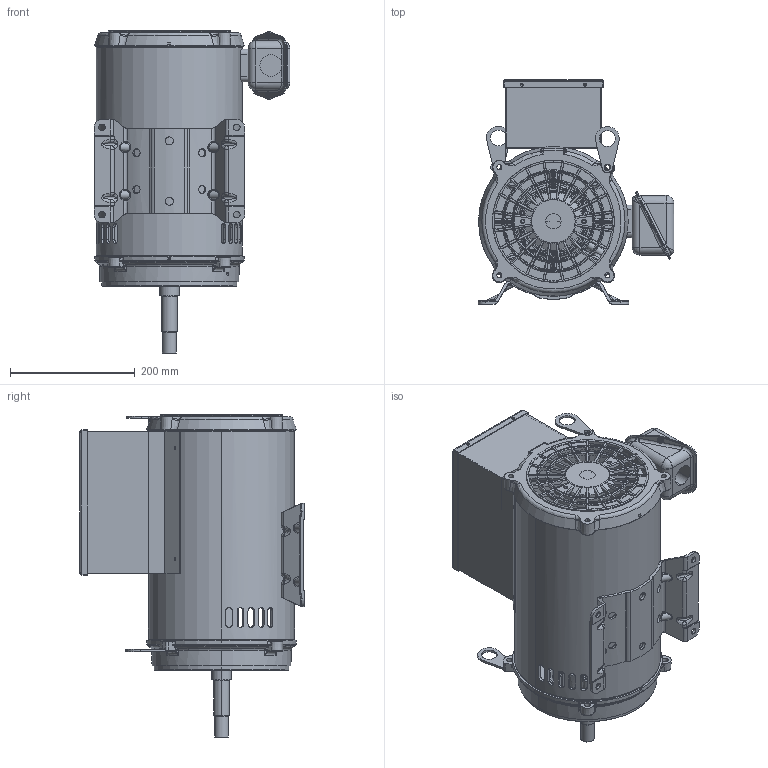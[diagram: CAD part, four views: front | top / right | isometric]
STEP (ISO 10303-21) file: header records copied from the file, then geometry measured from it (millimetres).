
FILE_DESCRIPTION((''),'2;1');
FILE_NAME('AF92_ASM','2014-07-30T',('NMC779F'),('Nidec Motor Corporation'),'PRO/ENGINEER BY PARAMETRIC TECHNOLOGY CORPORATION, 2013150','PRO/ENGINEER BY PARAMETRIC TECHNOLOGY CORPORATION, 2013150','');
FILE_SCHEMA(('CONFIG_CONTROL_DESIGN'));
Length unit declared in the file: inch
Products named in the file (17): 213_FRAME; 0903710-BKT_AF0; 0298010_AF0; 0903711_ASM; 0380748-BKT_AF1; 0362224_AF1; 0380749_ASM; 0172877; 0390418; 0390408; 0390417; 0376890; 0904184; 0904483; 0495309; 0951821; AF92_ASM
Assembly tree (17 placements, depth 3):
  AF92_ASM
    213_FRAME
    0903711_ASM
      0903710-BKT_AF0
      0298010_AF0
    0380749_ASM
      0380748-BKT_AF1
      0362224_AF1
    0172877
    0390418
    0390408
    0390417
    0376890  x2
    0904184
    0904483
    0495309
    0951821
Bounding box: 313.72 x 359.1 x 517.19 mm (x, y, z)
Volume: 3136846.3 mm3; surface area: 1511984.6 mm2
Topology: 17 solids, 17 shells, 2607 faces, 6644 edges, 4013 vertices
Faces by surface type: plane 631, cylinder 623, bspline 567, cone 359, torus 297, sphere 106, extrusion 24
Entity records: 107856 total; most frequent: CARTESIAN_POINT 50101, ORIENTED_EDGE 13176, DIRECTION 10547, EDGE_CURVE 6588, AXIS2_PLACEMENT_3D 4314, VERTEX_POINT 3997, EDGE_LOOP 2801, FACE_OUTER_BOUND 2597
